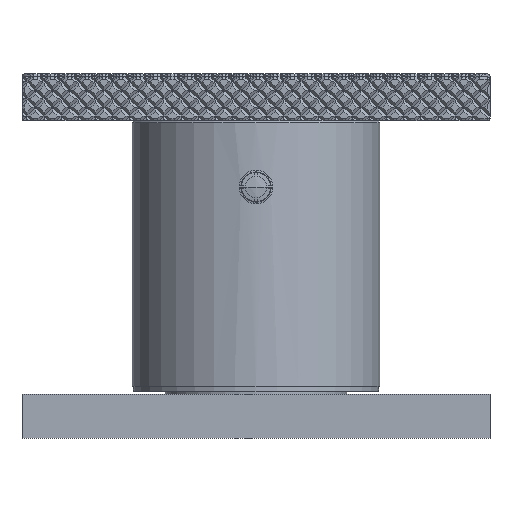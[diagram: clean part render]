
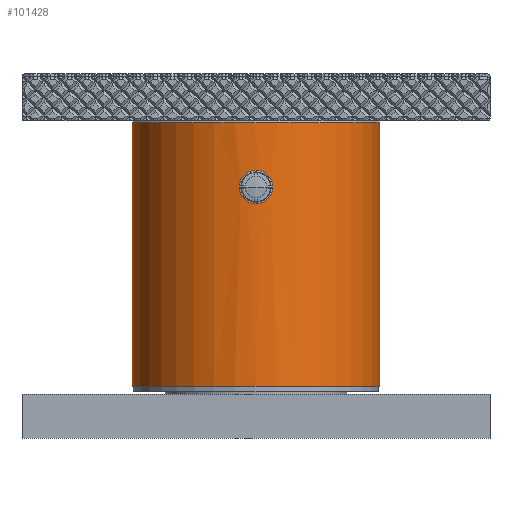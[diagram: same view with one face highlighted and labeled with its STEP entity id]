
A CAD part, front view. The second image highlights one B-rep face of the part: STEP entity #101428.
In plain terms, the highlighted cylindrical face has radius 22.5 mm (diameter 45 mm), a partial arc.
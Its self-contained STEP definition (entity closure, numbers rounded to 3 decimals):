
#100811=CARTESIAN_POINT('',(22.5,0.,9.4));
#100812=VERTEX_POINT('',#100811);
#100813=CARTESIAN_POINT('',(22.5,0.,57.3));
#100814=VERTEX_POINT('',#100813);
#100815=CARTESIAN_POINT('',(22.5,0.,9.4));
#100816=DIRECTION('',(0.0,0.0,1.0));
#100817=VECTOR('',#100816,47.9);
#100818=LINE('',#100815,#100817);
#100819=EDGE_CURVE('',#100812,#100814,#100818,.T.);
#100821=CARTESIAN_POINT('',(-22.5,0.,9.4));
#100822=VERTEX_POINT('',#100821);
#100830=CARTESIAN_POINT('',(-22.5,0.,57.3));
#100831=VERTEX_POINT('',#100830);
#100832=CARTESIAN_POINT('',(-22.5,0.,9.4));
#100833=DIRECTION('',(0.0,0.0,1.0));
#100834=VECTOR('',#100833,47.9);
#100835=LINE('',#100832,#100834);
#100836=EDGE_CURVE('',#100822,#100831,#100835,.T.);
#101296=CARTESIAN_POINT('',(-2.762,-22.33,45.6));
#101297=VERTEX_POINT('',#101296);
#101305=CARTESIAN_POINT('',(2.762,-22.33,45.6));
#101306=VERTEX_POINT('',#101305);
#101313=CARTESIAN_POINT('',(-2.762,-22.33,45.6));
#101314=CARTESIAN_POINT('',(-2.762,-22.33,45.677));
#101315=CARTESIAN_POINT('',(-2.756,-22.331,45.832));
#101316=CARTESIAN_POINT('',(-2.726,-22.334,46.063));
#101317=CARTESIAN_POINT('',(-2.677,-22.34,46.29));
#101318=CARTESIAN_POINT('',(-2.609,-22.348,46.513));
#101319=CARTESIAN_POINT('',(-2.522,-22.358,46.729));
#101320=CARTESIAN_POINT('',(-2.417,-22.37,46.938));
#101321=CARTESIAN_POINT('',(-2.294,-22.383,47.138));
#101322=CARTESIAN_POINT('',(-2.155,-22.397,47.326));
#101323=CARTESIAN_POINT('',(-1.999,-22.411,47.502));
#101324=CARTESIAN_POINT('',(-1.83,-22.426,47.665));
#101325=CARTESIAN_POINT('',(-1.646,-22.44,47.812));
#101326=CARTESIAN_POINT('',(-1.451,-22.453,47.944));
#101327=CARTESIAN_POINT('',(-1.246,-22.466,48.058));
#101328=CARTESIAN_POINT('',(-1.031,-22.477,48.155));
#101329=CARTESIAN_POINT('',(-0.81,-22.486,48.233));
#101330=CARTESIAN_POINT('',(-0.582,-22.493,48.292));
#101331=CARTESIAN_POINT('',(-0.351,-22.498,48.331));
#101332=CARTESIAN_POINT('',(-0.117,-22.5,48.351));
#101333=CARTESIAN_POINT('',(0.118,-22.5,48.351));
#101334=CARTESIAN_POINT('',(0.352,-22.498,48.331));
#101335=CARTESIAN_POINT('',(0.583,-22.493,48.291));
#101336=CARTESIAN_POINT('',(0.81,-22.486,48.232));
#101337=CARTESIAN_POINT('',(1.032,-22.477,48.154));
#101338=CARTESIAN_POINT('',(1.246,-22.466,48.058));
#101339=CARTESIAN_POINT('',(1.452,-22.453,47.943));
#101340=CARTESIAN_POINT('',(1.647,-22.44,47.812));
#101341=CARTESIAN_POINT('',(1.83,-22.426,47.664));
#101342=CARTESIAN_POINT('',(2.,-22.411,47.502));
#101343=CARTESIAN_POINT('',(2.155,-22.397,47.325));
#101344=CARTESIAN_POINT('',(2.295,-22.383,47.137));
#101345=CARTESIAN_POINT('',(2.417,-22.37,46.937));
#101346=CARTESIAN_POINT('',(2.523,-22.358,46.729));
#101347=CARTESIAN_POINT('',(2.609,-22.348,46.512));
#101348=CARTESIAN_POINT('',(2.678,-22.34,46.289));
#101349=CARTESIAN_POINT('',(2.726,-22.334,46.062));
#101350=CARTESIAN_POINT('',(2.756,-22.331,45.831));
#101351=CARTESIAN_POINT('',(2.762,-22.33,45.677));
#101352=CARTESIAN_POINT('',(2.762,-22.33,45.6));
#101353=B_SPLINE_CURVE_WITH_KNOTS('',3,(#101313,#101314,#101315,#101316,#101317,#101318,#101319,#101320,#101321,#101322,#101323,#101324,#101325,#101326,#101327,#101328,#101329,#101330,#101331,#101332,#101333,#101334,#101335,#101336,#101337,#101338,#101339,#101340,#101341,#101342,#101343,#101344,#101345,#101346,#101347,#101348,#101349,#101350,#101351,#101352),.UNSPECIFIED.,.F.,.U.,(4,1,1,1,1,1,1,1,1,1,1,1,1,1,1,1,1,1,1,1,1,1,1,1,1,1,1,1,1,1,1,1,1,1,1,1,1,4),(0.0,0.027,0.054,0.081,0.108,0.135,0.162,0.189,0.216,0.243,0.27,0.297,0.324,0.351,0.378,0.405,0.432,0.459,0.486,0.514,0.541,0.568,0.595,0.622,0.649,0.676,0.703,0.73,0.757,0.784,0.811,0.838,0.865,0.892,0.919,0.946,0.973,1.0),.UNSPECIFIED.);
#101354=EDGE_CURVE('',#101297,#101306,#101353,.T.);
#101359=CARTESIAN_POINT('',(0.0,0.0,9.4));
#101360=DIRECTION('',(0.0,0.0,1.0));
#101361=DIRECTION('',(0.0,1.0,0.0));
#101362=AXIS2_PLACEMENT_3D('',#101359,#101360,#101361);
#101363=CYLINDRICAL_SURFACE('',#101362,22.5);
#101364=ORIENTED_EDGE('',*,*,#100836,.F.);
#101365=CARTESIAN_POINT('',(0.0,0.0,9.4));
#101366=DIRECTION('',(0.0,0.0,1.0));
#101367=DIRECTION('',(-1.0,0.0,0.0));
#101368=AXIS2_PLACEMENT_3D('',#101365,#101366,#101367);
#101369=CIRCLE('',#101368,22.5);
#101370=EDGE_CURVE('',#100822,#100812,#101369,.T.);
#101371=ORIENTED_EDGE('',*,*,#101370,.T.);
#101372=ORIENTED_EDGE('',*,*,#100819,.T.);
#101373=CARTESIAN_POINT('',(0.0,0.0,57.3));
#101374=DIRECTION('',(0.0,0.0,1.0));
#101375=DIRECTION('',(-1.0,0.0,0.0));
#101376=AXIS2_PLACEMENT_3D('',#101373,#101374,#101375);
#101377=CIRCLE('',#101376,22.5);
#101378=EDGE_CURVE('',#100831,#100814,#101377,.T.);
#101379=ORIENTED_EDGE('',*,*,#101378,.F.);
#101380=EDGE_LOOP('',(#101364,#101371,#101372,#101379));
#101381=FACE_OUTER_BOUND('',#101380,.T.);
#101382=CARTESIAN_POINT('',(2.762,-22.33,45.6));
#101383=CARTESIAN_POINT('',(2.762,-22.33,45.523));
#101384=CARTESIAN_POINT('',(2.756,-22.331,45.368));
#101385=CARTESIAN_POINT('',(2.726,-22.334,45.137));
#101386=CARTESIAN_POINT('',(2.677,-22.34,44.91));
#101387=CARTESIAN_POINT('',(2.609,-22.348,44.687));
#101388=CARTESIAN_POINT('',(2.522,-22.358,44.471));
#101389=CARTESIAN_POINT('',(2.417,-22.37,44.262));
#101390=CARTESIAN_POINT('',(2.294,-22.383,44.062));
#101391=CARTESIAN_POINT('',(2.155,-22.397,43.874));
#101392=CARTESIAN_POINT('',(1.999,-22.411,43.698));
#101393=CARTESIAN_POINT('',(1.83,-22.426,43.535));
#101394=CARTESIAN_POINT('',(1.646,-22.44,43.388));
#101395=CARTESIAN_POINT('',(1.451,-22.453,43.256));
#101396=CARTESIAN_POINT('',(1.246,-22.466,43.142));
#101397=CARTESIAN_POINT('',(1.031,-22.477,43.045));
#101398=CARTESIAN_POINT('',(0.81,-22.486,42.967));
#101399=CARTESIAN_POINT('',(0.582,-22.493,42.908));
#101400=CARTESIAN_POINT('',(0.351,-22.498,42.869));
#101401=CARTESIAN_POINT('',(0.117,-22.5,42.849));
#101402=CARTESIAN_POINT('',(-0.118,-22.5,42.849));
#101403=CARTESIAN_POINT('',(-0.352,-22.498,42.869));
#101404=CARTESIAN_POINT('',(-0.583,-22.493,42.909));
#101405=CARTESIAN_POINT('',(-0.81,-22.486,42.968));
#101406=CARTESIAN_POINT('',(-1.032,-22.477,43.046));
#101407=CARTESIAN_POINT('',(-1.246,-22.466,43.142));
#101408=CARTESIAN_POINT('',(-1.452,-22.453,43.257));
#101409=CARTESIAN_POINT('',(-1.647,-22.44,43.388));
#101410=CARTESIAN_POINT('',(-1.83,-22.426,43.536));
#101411=CARTESIAN_POINT('',(-2.,-22.411,43.698));
#101412=CARTESIAN_POINT('',(-2.155,-22.397,43.875));
#101413=CARTESIAN_POINT('',(-2.295,-22.383,44.063));
#101414=CARTESIAN_POINT('',(-2.417,-22.37,44.263));
#101415=CARTESIAN_POINT('',(-2.523,-22.358,44.471));
#101416=CARTESIAN_POINT('',(-2.609,-22.348,44.688));
#101417=CARTESIAN_POINT('',(-2.678,-22.34,44.911));
#101418=CARTESIAN_POINT('',(-2.726,-22.334,45.138));
#101419=CARTESIAN_POINT('',(-2.756,-22.331,45.369));
#101420=CARTESIAN_POINT('',(-2.762,-22.33,45.523));
#101421=CARTESIAN_POINT('',(-2.762,-22.33,45.6));
#101422=B_SPLINE_CURVE_WITH_KNOTS('',3,(#101382,#101383,#101384,#101385,#101386,#101387,#101388,#101389,#101390,#101391,#101392,#101393,#101394,#101395,#101396,#101397,#101398,#101399,#101400,#101401,#101402,#101403,#101404,#101405,#101406,#101407,#101408,#101409,#101410,#101411,#101412,#101413,#101414,#101415,#101416,#101417,#101418,#101419,#101420,#101421),.UNSPECIFIED.,.F.,.U.,(4,1,1,1,1,1,1,1,1,1,1,1,1,1,1,1,1,1,1,1,1,1,1,1,1,1,1,1,1,1,1,1,1,1,1,1,1,4),(0.0,0.027,0.054,0.081,0.108,0.135,0.162,0.189,0.216,0.243,0.27,0.297,0.324,0.351,0.378,0.405,0.432,0.459,0.486,0.514,0.541,0.568,0.595,0.622,0.649,0.676,0.703,0.73,0.757,0.784,0.811,0.838,0.865,0.892,0.919,0.946,0.973,1.0),.UNSPECIFIED.);
#101423=EDGE_CURVE('',#101306,#101297,#101422,.T.);
#101424=ORIENTED_EDGE('',*,*,#101423,.T.);
#101425=ORIENTED_EDGE('',*,*,#101354,.T.);
#101426=EDGE_LOOP('',(#101424,#101425));
#101427=FACE_BOUND('',#101426,.T.);
#101428=ADVANCED_FACE('',(#101381,#101427),#101363,.T.);
